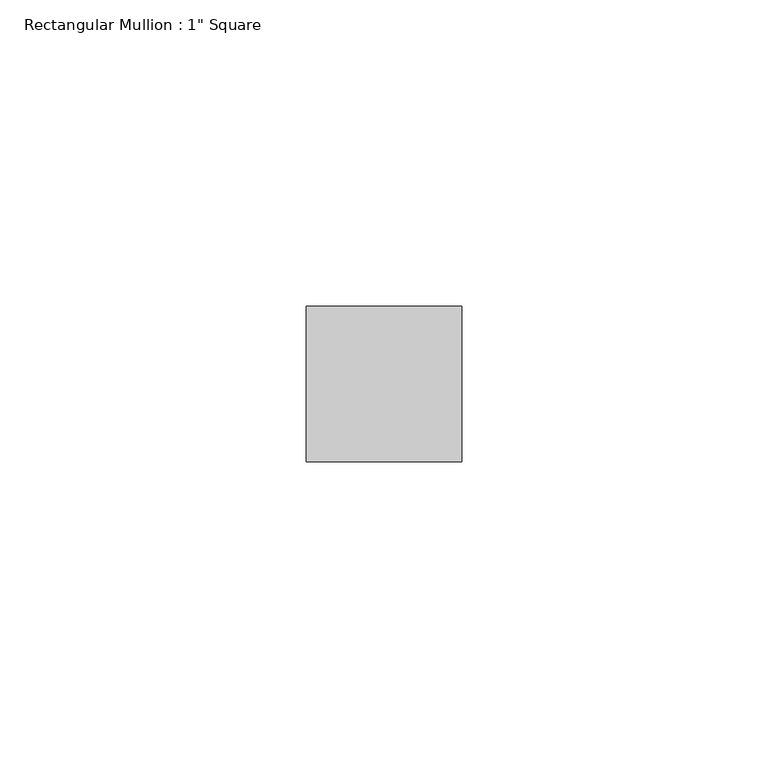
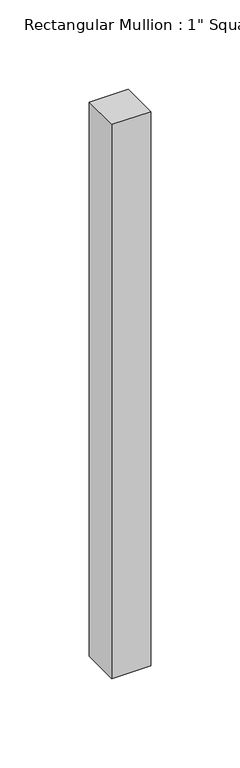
"""IFC4 building model written with IfcOpenShell, lengths in millimetres: member geometry."""

import ifcopenshell
import ifcopenshell.guid

model = None  # the IFC model being written
_history = None  # IfcOwnerHistory: only IFC2X3 demands one
_inside = {}  # id of a spatial element -> (the spatial element, [elements in it])
_under = {}  # id of a project, library or spatial element -> (it, [spatial elements below it])
_declared = {}  # id of a project -> (the project, [libraries it declares])
_typed = {}  # id of a type object -> (the type object, [elements of that type])
_made_of = {}  # id of a material, layer set ... -> (it, [elements and type objects made of it])


def new_model(schema):
    """Start an empty IFC model of exactly this schema.

    Asked for "IFC4X3", IfcOpenShell would pick the latest addendum, in which some entities
    have other attributes; the version numbers below select the first issue.
    IFC2X3 requires an IfcOwnerHistory on every rooted entity: one is made here for all.
    """
    global model, _history
    if schema == "IFC4X3":
        model = ifcopenshell.file(schema_version=(4, 3, 0, 0))
    else:
        model = ifcopenshell.file(schema=schema)
    _inside.clear()
    _under.clear()
    _declared.clear()
    _typed.clear()
    _made_of.clear()
    _history = None
    if model.schema == "IFC2X3":
        org = make("IfcOrganization", Name="unknown")
        user = make(
            "IfcPersonAndOrganization",
            ThePerson=make("IfcPerson", FamilyName="unknown"),
            TheOrganization=org,
        )
        app = make(
            "IfcApplication",
            ApplicationDeveloper=org,
            Version="unknown",
            ApplicationFullName="unknown",
            ApplicationIdentifier="unknown",
        )
        _history = make(
            "IfcOwnerHistory",
            OwningUser=user,
            OwningApplication=app,
            ChangeAction="ADDED",
            CreationDate=0,
        )
    return model


def make(cls, **values):
    """One entity of the class cls with the attributes given. An attribute that is None is left unset."""
    return model.create_entity(
        cls, **{name: value for name, value in values.items() if value is not None}
    )


def rooted(cls, **values):
    """An entity with a GlobalId (a new one), such as an element, a storey or a relation."""
    return make(cls, GlobalId=ifcopenshell.guid.new(), OwnerHistory=_history, **values)


def si_unit(unit_type, name, prefix=None):
    """IfcSIUnit, for example si_unit("LENGTHUNIT", "METRE", prefix="MILLI")."""
    return make("IfcSIUnit", UnitType=unit_type, Prefix=prefix, Name=name)


def assignment(units):
    """IfcUnitAssignment: the units of a project."""
    return None if units is None else make("IfcUnitAssignment", Units=units)


def point(xyz):
    """IfcCartesianPoint."""
    return None if xyz is None else make("IfcCartesianPoint", Coordinates=xyz)


def direction(xyz):
    """IfcDirection."""
    return None if xyz is None else make("IfcDirection", DirectionRatios=xyz)


def frame(location, z_axis=None, x_axis=None):
    """IfcAxis2Placement3D, a coordinate frame: its origin and axes. An axis left out is left unset."""
    return make(
        "IfcAxis2Placement3D",
        Location=point(location),
        Axis=direction(z_axis),
        RefDirection=direction(x_axis),
    )


def origin():
    """The frame at (0, 0, 0) with its axes left unset."""
    return frame((0.0, 0.0, 0.0))


def place(relative_to, where):
    """IfcLocalPlacement: puts the frame where relative to a parent placement (None: the world)."""
    return make(
        "IfcLocalPlacement", PlacementRelTo=relative_to, RelativePlacement=where
    )


def context(
    kind, dimensions, precision=None, world=None, true_north=None, identifier=None
):
    """IfcGeometricRepresentationContext, for example the 3D "Model" context."""
    return make(
        "IfcGeometricRepresentationContext",
        ContextIdentifier=identifier,
        ContextType=kind,
        CoordinateSpaceDimension=dimensions,
        Precision=precision,
        WorldCoordinateSystem=world,
        TrueNorth=true_north,
    )


def project(units=None, contexts=None):
    """IfcProject with its units and contexts."""
    return rooted(
        "IfcProject",
        Name="project",
        RepresentationContexts=contexts,
        UnitsInContext=assignment(units),
    )


def spatial(cls, under=None, at=None, **own):
    """A site, building, storey or space (cls), placed at a placement, below another one or the project."""
    s = rooted(cls, ObjectPlacement=at, **own)
    if under is not None:
        _under.setdefault(under.id(), (under, []))[1].append(s)
    return s


def polyline(points):
    """IfcPolyline through the points."""
    return make("IfcPolyline", Points=[point(p) for p in points])


def outline(outer, holes=None, kind="AREA"):
    """IfcArbitraryClosedProfileDef: a profile drawn as a closed curve; with holes, ...WithVoids."""
    if holes is None:
        return make("IfcArbitraryClosedProfileDef", ProfileType=kind, OuterCurve=outer)
    return make(
        "IfcArbitraryProfileDefWithVoids",
        ProfileType=kind,
        OuterCurve=outer,
        InnerCurves=holes,
    )


def extrude(swept, where, along, depth):
    """IfcExtrudedAreaSolid: the profile swept, set in the frame where, extruded along a direction by depth."""
    return make(
        "IfcExtrudedAreaSolid",
        SweptArea=swept,
        Position=where,
        ExtrudedDirection=direction(along),
        Depth=depth,
    )


def shape(context_of_items, identifier, shape_type, items):
    """IfcShapeRepresentation: the items that make up one representation, for example the "Body"."""
    return make(
        "IfcShapeRepresentation",
        ContextOfItems=context_of_items,
        RepresentationIdentifier=identifier,
        RepresentationType=shape_type,
        Items=items,
    )


def source(mapping_origin, context_of_items, identifier, shape_type, items):
    """IfcRepresentationMap: a shape defined once, which mapped items show again and again."""
    return make(
        "IfcRepresentationMap",
        MappingOrigin=mapping_origin,
        MappedRepresentation=shape(context_of_items, identifier, shape_type, items),
    )


def transform(
    local_origin,
    x_axis=None,
    y_axis=None,
    z_axis=None,
    scale=None,
    scale2=None,
    scale3=None,
    uniform=True,
):
    """IfcCartesianTransformationOperator3D, or its non-uniform kind. x_axis, y_axis, z_axis: its Axis1, 2, 3."""
    if uniform:
        return make(
            "IfcCartesianTransformationOperator3D",
            Axis1=direction(x_axis),
            Axis2=direction(y_axis),
            LocalOrigin=point(local_origin),
            Scale=scale,
            Axis3=direction(z_axis),
        )
    return make(
        "IfcCartesianTransformationOperator3DnonUniform",
        Axis1=direction(x_axis),
        Axis2=direction(y_axis),
        LocalOrigin=point(local_origin),
        Scale=scale,
        Axis3=direction(z_axis),
        Scale2=scale2,
        Scale3=scale3,
    )


def mapped(mapping_source, mapping_target):
    """IfcMappedItem: shows the shape of a source again, moved by a transform."""
    return make(
        "IfcMappedItem", MappingSource=mapping_source, MappingTarget=mapping_target
    )


def made_of(thing, what):
    """Note that an element or type object is made of a material, layer set ...; save() writes the relation."""
    if what is not None:
        _made_of.setdefault(what.id(), (what, []))[1].append(thing)
    return thing


def element(
    cls,
    number,
    at=None,
    inside=None,
    cuts=None,
    type_object=None,
    material=None,
    context=None,
    identifier="Body",
    shape_type=None,
    held_by="IfcProductDefinitionShape",
    body=None,
    shapes=None,
    **own,
):
    """One element of the class cls, such as IfcWall. Its Tag is "e" and its number.

    at: its placement. inside: the storey or other place that contains it. cuts: it is an
    opening in that element (IfcRelVoidsElement). A single representation is given by context,
    identifier, shape_type and body (its items); several are given by shapes. held_by: the class
    of the entity that holds the representations. save() writes the other relations.
    """
    e = rooted(cls, Tag="e%d" % number, ObjectPlacement=at, **own)
    if body is not None:
        shapes = [shape(context, identifier, shape_type, body)]
    if shapes is not None:
        e.Representation = make(held_by, Representations=shapes)
    if inside is not None:
        _inside.setdefault(inside.id(), (inside, []))[1].append(e)
    if cuts is not None:
        rooted(
            "IfcRelVoidsElement", RelatingBuildingElement=cuts, RelatedOpeningElement=e
        )
    if type_object is not None:
        _typed.setdefault(type_object.id(), (type_object, []))[1].append(e)
    return made_of(e, material)


def aggregate(whole, parts):
    """IfcRelAggregates: a whole, such as a stair, and the parts it consists of."""
    return rooted("IfcRelAggregates", RelatingObject=whole, RelatedObjects=parts)


def save(model, path):
    """Write the relations noted so far, then the file.

    IfcRelAggregates (storeys below a building ...), IfcRelContainedInSpatialStructure (elements
    in a storey), IfcRelDefinesByType, IfcRelAssociatesMaterial and IfcRelDeclares: one each for
    every whole, place, type object, material and project.
    """
    for whole, parts in _under.values():
        aggregate(whole, parts)
    for where, things in _inside.values():
        rooted(
            "IfcRelContainedInSpatialStructure",
            RelatedElements=things,
            RelatingStructure=where,
        )
    for kind, things in _typed.values():
        rooted("IfcRelDefinesByType", RelatedObjects=things, RelatingType=kind)
    for what, things in _made_of.values():
        rooted("IfcRelAssociatesMaterial", RelatedObjects=things, RelatingMaterial=what)
    for by, libraries in _declared.values():
        rooted("IfcRelDeclares", RelatingContext=by, RelatedDefinitions=libraries)
    model.write(path)


def member_1e977d90(model_context):
    return source(origin(), model_context, "Body", "SweptSolid", [
        extrude(outline(polyline([(0.0, 12.7), (0.0, -12.7), (-25.4, -12.7), (-25.4, 12.7), (0.0, 12.7)])), frame((0.0, 0.0, -380.0321104), z_axis=(0.0, 0.0, 1.0), x_axis=(1.0, 0.0, 0.0)), (0.0, 0.0, 1.0), 380.0321104),
    ])


if __name__ == "__main__":
    model = new_model("IFC4")
    model_context = context("Model", 3, world=origin())
    ifc_project = project(units=[si_unit("LENGTHUNIT", "METRE", prefix="MILLI")], contexts=[model_context])
    site = spatial("IfcSite", under=ifc_project)
    building = spatial("IfcBuilding", under=site)
    placement = place(None, origin())
    member_shape = member_1e977d90(model_context)
    element("IfcMember", 1, ObjectType="Rectangular Mullion : 1\" Square", at=placement, inside=building, context=model_context, shape_type="MappedRepresentation", body=[
        mapped(member_shape, transform((0.0, 0.0, 0.0), x_axis=(1.0, 0.0, 0.0), y_axis=(0.0, 1.0, 0.0), z_axis=(0.0, 0.0, 1.0))),
    ])
    save(model, "model.ifc")
